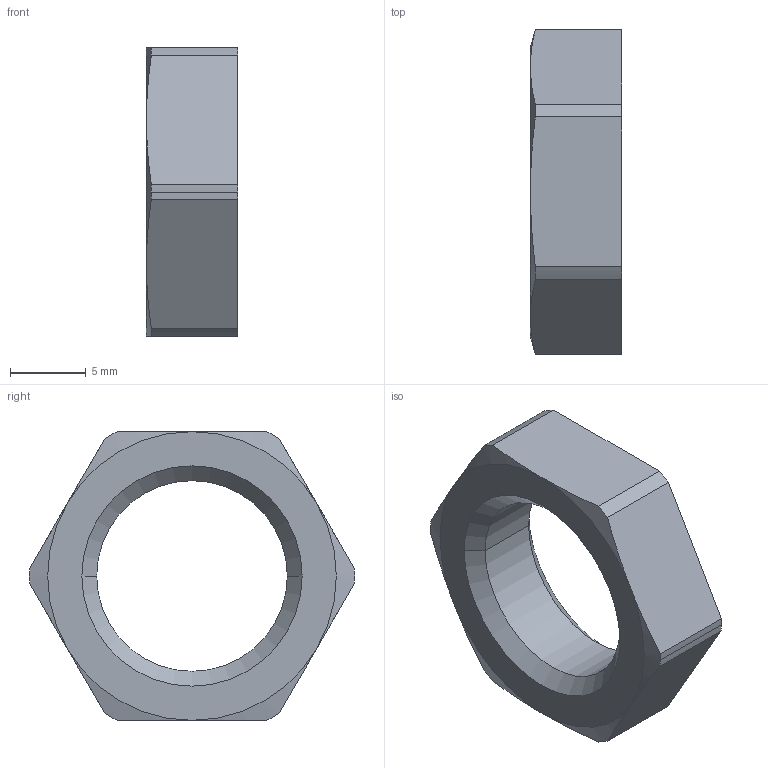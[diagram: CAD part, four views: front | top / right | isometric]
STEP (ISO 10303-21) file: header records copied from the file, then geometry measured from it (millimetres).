
FILE_DESCRIPTION((''),'2;1');
FILE_NAME('108705.0.stp','2007-11-06T08:53:28',(''),(''),'AutoCAD STEP 2000i','AutoCAD 2000i',', , ');
FILE_SCHEMA(('CONFIG_CONTROL_DESIGN'));
Length unit declared in the file: millimetre
Products named in the file (2): 108705.0; CHIAVE SMUSSX1036#0
Assembly tree (1 placements, depth 2):
  108705.0
    CHIAVE SMUSSX1036#0
Bounding box: 6 x 21.4 x 19 mm (x, y, z)
Volume: 1086.3 mm3; surface area: 952.5 mm2
Topology: 1 solids, 1 shells, 28 faces, 68 edges, 42 vertices
Faces by surface type: cylinder 10, cone 10, plane 8
Entity records: 923 total; most frequent: CARTESIAN_POINT 164, DIRECTION 146, ORIENTED_EDGE 136, EDGE_CURVE 68, AXIS2_PLACEMENT_3D 60, VERTEX_POINT 42, CIRCLE 30, EDGE_LOOP 30
